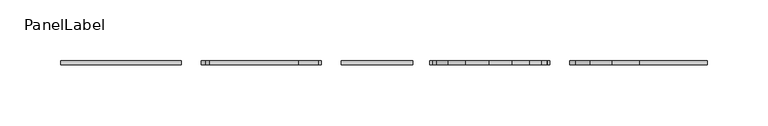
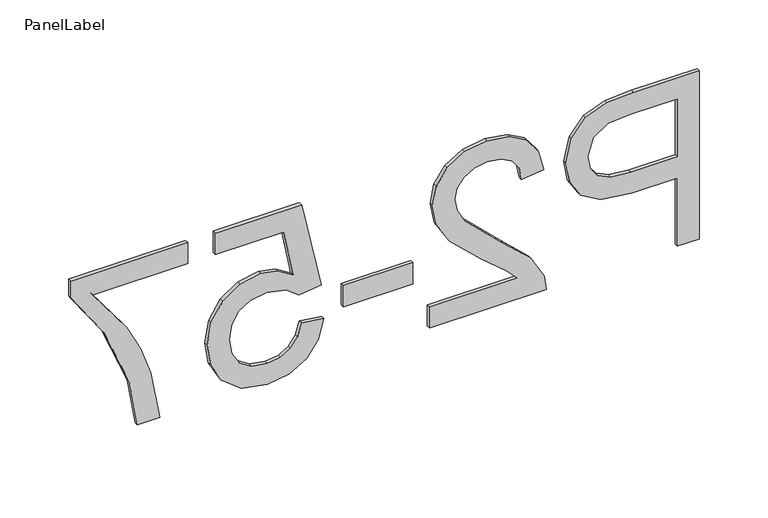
"""IFC4 building model written with IfcOpenShell, lengths in millimetres: fastener geometry, PanelLabel : Miranda."""

from ifc_helpers import new_model, si_unit, frame, origin, place, context, project, spatial, polyline, outline, extrude, source, transform, mapped, element, save


def panellabel_7d7d7d8c(model_context):
    return source(origin(), model_context, "Body", "SweptSolid", [
        extrude(outline(polyline([(1310.9113766, 260.2523077), (1460.9667612, 260.2523077), (1460.9667612, 204.6409615), (1459.5380112, 182.2205769), (1452.5224823, 163.9948558), (1438.0151747, 152.1801923), (1417.554742, 147.7107692), (1399.8693814, 150.7285457), (1385.1331073, 159.781875), (1375.1868093, 176.7116466), (1371.8713766, 203.35875), (1371.8713766, 241.4953846), (1310.9113766, 241.4953846), (1310.9113766, 260.2523077)]), holes=[polyline([(1390.6282997, 241.4953846), (1390.6282997, 202.2597115), (1392.3501266, 185.6275962), (1397.5156073, 174.6372115), (1405.8041891, 168.5100721), (1416.8953189, 166.4676923), (1432.4283958, 171.2851442), (1440.9276266, 183.9424038), (1442.2098381, 202.6993269), (1442.2098381, 241.4953846), (1390.6282997, 241.4953846)])]), frame((0.0, 60.325, 0.0), z_axis=(0.0, 1.0, 0.0), x_axis=(0.0, 0.0, 1.0)), (0.0, 0.0, 1.0), 3.175),
        extrude(outline(polyline([(1329.6682997, 32.8246154), (1310.9113766, 32.8246154), (1310.9113766, 131.2984615), (1323.8433958, 129.2835577), (1343.7543093, 117.8901923), (1365.4969535, 94.4074038), (1396.7462804, 62.0224038), (1407.5168573, 55.9502163), (1417.9943573, 53.9261538), (1427.3865569, 55.8357332), (1435.1943093, 61.5644712), (1440.4559559, 70.3705168), (1442.2098381, 81.5120192), (1440.4971698, 93.2121995), (1435.359165, 102.3021635), (1427.1988045, 108.1682813), (1416.4190689, 110.1969231), (1418.7636843, 128.9538462), (1436.9069775, 124.4065745), (1450.1595497, 114.5747596), (1458.2649583, 99.9712861), (1460.9667612, 81.1090385), (1457.9627227, 62.1094111), (1448.9506073, 47.5334135), (1435.4873862, 38.2602764), (1419.1300304, 35.1692308), (1401.3439247, 38.5029808), (1382.9533477, 49.5849519), (1357.254165, 76.4564423), (1339.211617, 98.0342308), (1329.6682997, 106.4968269), (1329.6682997, 32.8246154)])), frame((0.0, 60.325, 0.0), z_axis=(0.0, 1.0, 0.0), x_axis=(0.0, 0.0, 1.0)), (0.0, 0.0, 1.0), 3.175),
        extrude(outline(polyline([(-39.8584615, 63.5), (18.7569231, 63.5), (18.7569231, 60.325), (-39.8584615, 60.325), (-39.8584615, 63.5)])), frame((0.0, 0.0, 1355.4590689), z_axis=(0.0, 0.0, 1.0), x_axis=(1.0, 0.0, 0.0)), (0.0, 0.0, 1.0), 18.7569231),
        extrude(outline(polyline([(1350.7698381, -56.2707692), (1353.1144535, -75.0276923), (1341.8538886, -78.4713462), (1333.7896939, -84.4794231), (1328.9401867, -93.0244471), (1327.3236843, -104.0789423), (1329.5721338, -117.5238462), (1336.3174823, -127.5983654), (1346.7812444, -133.8903606), (1360.1849343, -135.9876923), (1372.8055593, -134.0231611), (1382.4587804, -128.1295673), (1388.5859198, -118.2611178), (1390.6282997, -104.3720192), (1387.3678189, -87.9047596), (1378.9052227, -77.3723077), (1381.2498381, -58.6153846), (1458.6221458, -75.0276923), (1458.6221458, -147.7107692), (1439.8652227, -147.7107692), (1439.8652227, -90.1944231), (1398.5413766, -82.1714423), (1406.6742612, -95.5705529), (1409.3852227, -109.6107692), (1406.0239968, -127.1358534), (1395.9403189, -141.684375), (1380.5720977, -151.4795553), (1361.357242, -154.7446154), (1342.6003189, -151.8046875), (1326.5543573, -142.9849038), (1313.0636602, -126.0963462), (1308.5667612, -104.0056731), (1311.4563165, -85.5830409), (1320.1249823, -70.9062981), (1333.5653069, -60.8455168), (1350.7698381, -56.2707692)])), frame((0.0, 60.325, 0.0), z_axis=(0.0, 1.0, 0.0), x_axis=(0.0, 0.0, 1.0)), (0.0, 0.0, 1.0), 3.175),
        extrude(outline(polyline([(1439.8652227, -171.1569231), (1458.6221458, -171.1569231), (1458.6221458, -269.6307692), (1443.455415, -269.6307692), (1403.1023862, -241.696875), (1351.6857035, -220.3205769), (1310.9113766, -213.36), (1310.9113766, -194.6030769), (1353.2243573, -202.0582212), (1377.5817972, -210.7360457), (1401.0508477, -222.5186538), (1439.8652227, -250.8738462), (1439.8652227, -171.1569231)])), frame((0.0, 60.325, 0.0), z_axis=(0.0, 1.0, 0.0), x_axis=(0.0, 0.0, 1.0)), (0.0, 0.0, 1.0), 3.175),
    ])


if __name__ == "__main__":
    model = new_model("IFC4")
    model_context = context("Model", 3, world=origin())
    ifc_project = project(units=[si_unit("LENGTHUNIT", "METRE", prefix="MILLI")], contexts=[model_context])
    site = spatial("IfcSite", under=ifc_project)
    building = spatial("IfcBuilding", under=site)
    placement = place(None, origin())
    panellabel_shape = panellabel_7d7d7d8c(model_context)
    element("IfcFastener", 1, ObjectType="PanelLabel : Miranda", at=placement, inside=building, context=model_context, shape_type="MappedRepresentation", body=[
        mapped(panellabel_shape, transform((0.0, 0.0, 0.0), x_axis=(1.0, 0.0, 0.0), y_axis=(0.0, 1.0, 0.0), z_axis=(0.0, 0.0, 1.0))),
    ])
    save(model, "model.ifc")
